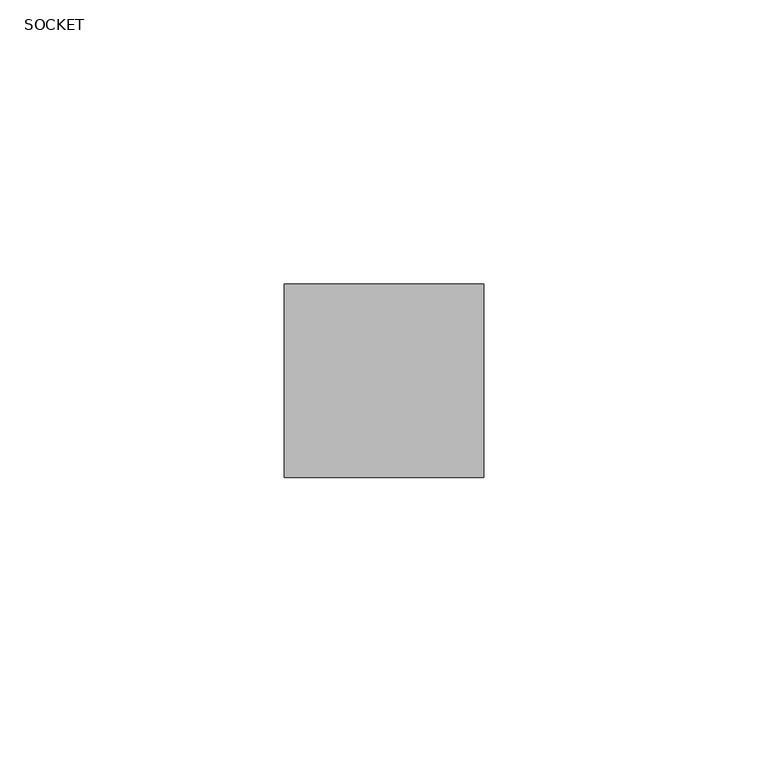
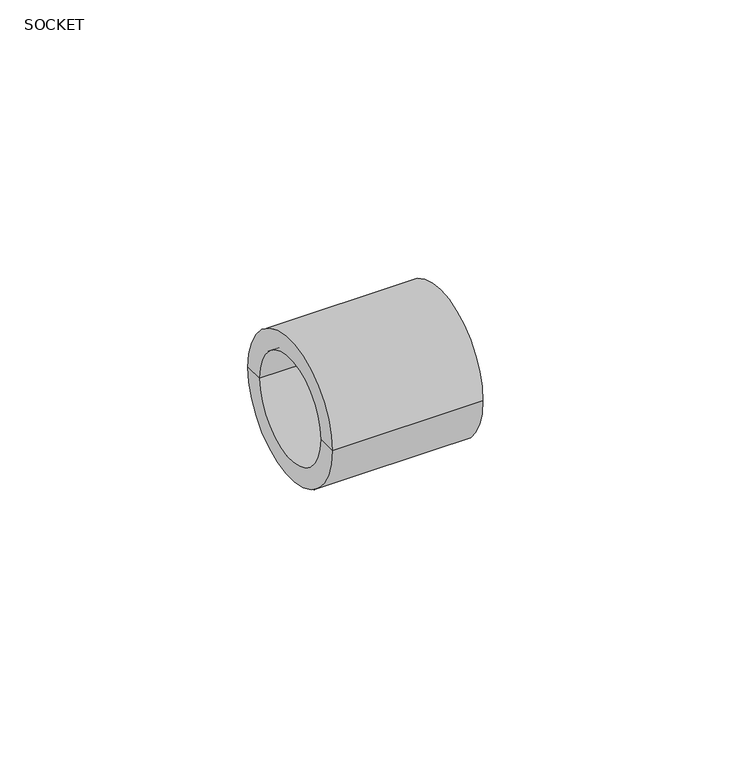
"""IFC4 building model written with IfcOpenShell, lengths in millimetres: pipe fitting geometry, Aquatherm - Coupling Socket : SOCKET."""

from ifc_helpers import new_model, si_unit, frame, origin, place, context, project, spatial, polyline, circle_curve, source, transform, mapped, element, save
from ifc_brep_helpers import plane_surface, cylinder_surface, revolved_surface, advanced_brep


def socket_94762d36(model_context):
    return source(origin(), model_context, "Body", "AdvancedBrep", [
        advanced_brep(
        [(-17.526, -12.446, 0.0), (-17.526, 12.446, 0.0), (-17.526, 17.018, 0.0), (-17.526, -17.018, 0.0), (-1.524, -12.446, 0.0), (-1.524, 12.446, 0.0), (-1.524, -9.398, 0.0), (-1.524, 9.398, 0.0), (1.524, -9.398, 0.0), (1.524, 9.398, 0.0), (1.524, -12.446, 0.0), (1.524, 12.446, 0.0), (17.526, -12.446, 0.0), (17.526, 12.446, 0.0), (17.526, -17.018, 0.0), (17.526, 17.018, 0.0)],
        [
            (0, 1, circle_curve(frame((-17.526, 0.0, 0.0), z_axis=(1.0, 0.0, 0.0), x_axis=(0.0, 1.0, 0.0)), 12.446)),
            (1, 2),
            (2, 3, circle_curve(frame((-17.526, 0.0, 0.0), z_axis=(-1.0, 0.0, 0.0), x_axis=(0.0, 1.0, 0.0)), 17.018)),
            (3, 0),
            (1, 0, circle_curve(frame((-17.526, 0.0, 0.0), z_axis=(1.0, 0.0, 0.0), x_axis=(0.0, 1.0, 0.0)), 12.446)),
            (3, 2, circle_curve(frame((-17.526, 0.0, 0.0), z_axis=(-1.0, 0.0, 0.0), x_axis=(0.0, 1.0, 0.0)), 17.018)),
            (4, 5, circle_curve(frame((-1.524, 0.0, 0.0), z_axis=(1.0, 0.0, 0.0), x_axis=(0.0, 1.0, 0.0)), 12.446)),
            (5, 1),
            (0, 4),
            (5, 4, circle_curve(frame((-1.524, 0.0, 0.0), z_axis=(1.0, 0.0, 0.0), x_axis=(0.0, 1.0, 0.0)), 12.446)),
            (6, 7, circle_curve(frame((-1.524, 0.0, 0.0), z_axis=(1.0, 0.0, 0.0), x_axis=(0.0, 1.0, 0.0)), 9.398)),
            (7, 5),
            (4, 6),
            (7, 6, circle_curve(frame((-1.524, 0.0, 0.0), z_axis=(1.0, 0.0, 0.0), x_axis=(0.0, 1.0, 0.0)), 9.398)),
            (8, 9, circle_curve(frame((1.524, 0.0, 0.0), z_axis=(1.0, 0.0, 0.0), x_axis=(0.0, 1.0, 0.0)), 9.398)),
            (9, 7),
            (6, 8),
            (9, 8, circle_curve(frame((1.524, 0.0, 0.0), z_axis=(1.0, 0.0, 0.0), x_axis=(0.0, 1.0, 0.0)), 9.398)),
            (10, 11, circle_curve(frame((1.524, 0.0, 0.0), z_axis=(1.0, 0.0, 0.0), x_axis=(0.0, 1.0, 0.0)), 12.446)),
            (11, 9),
            (8, 10),
            (11, 10, circle_curve(frame((1.524, 0.0, 0.0), z_axis=(1.0, 0.0, 0.0), x_axis=(0.0, 1.0, 0.0)), 12.446)),
            (12, 13, circle_curve(frame((17.526, 0.0, 0.0), z_axis=(1.0, 0.0, 0.0), x_axis=(0.0, 1.0, 0.0)), 12.446)),
            (13, 11),
            (10, 12),
            (13, 12, circle_curve(frame((17.526, 0.0, 0.0), z_axis=(1.0, 0.0, 0.0), x_axis=(0.0, 1.0, 0.0)), 12.446)),
            (14, 15, circle_curve(frame((17.526, 0.0, 0.0), z_axis=(1.0, 0.0, 0.0), x_axis=(0.0, 1.0, 0.0)), 17.018)),
            (15, 13),
            (12, 14),
            (15, 14, circle_curve(frame((17.526, 0.0, 0.0), z_axis=(1.0, 0.0, 0.0), x_axis=(0.0, 1.0, 0.0)), 17.018)),
            (2, 15),
            (14, 3),
        ],
        [
            plane_surface(frame((-17.526, 0.0, 0.0), z_axis=(-1.0, 0.0, 0.0), x_axis=(0.0, 1.0, 0.0))),
            revolved_surface(polyline([(-17.526, 12.446, 0.0), (-1.524000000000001, 12.446, 0.0)]), (-33.8244022, 0.0, 0.0), (-1.0, 0.0, 0.0)),
            plane_surface(frame((-1.524, 0.0, 0.0), z_axis=(-1.0, 0.0, 0.0), x_axis=(0.0, 1.0, 0.0))),
            revolved_surface(polyline([(-1.524000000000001, 9.398, 0.0), (1.524000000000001, 9.398, 0.0)]), (-33.8244022, 0.0, 0.0), (-1.0, 0.0, 0.0)),
            plane_surface(frame((1.524, 0.0, 0.0), z_axis=(1.0, 0.0, 0.0), x_axis=(0.0, 1.0, 0.0))),
            revolved_surface(polyline([(1.524000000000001, 12.446, 0.0), (17.526000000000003, 12.446, 0.0)]), (-33.8244022, 0.0, 0.0), (-1.0, 0.0, 0.0)),
            plane_surface(frame((17.526, 0.0, 0.0), z_axis=(1.0, 0.0, 0.0), x_axis=(0.0, 1.0, 0.0))),
            cylinder_surface(frame((-33.8244022, 0.0, 0.0), z_axis=(-1.0, 0.0, 0.0), x_axis=(0.0, 1.0, 0.0)), 17.018),
        ],
        [
            (0, [[1, 2, 3, 4]]),
            (0, [[5, -4, 6, -2]]),
            (1, [[7, 8, -1, 9]]),
            (1, [[10, -9, -5, -8]]),
            (2, [[11, 12, -7, 13]]),
            (2, [[14, -13, -10, -12]]),
            (3, [[15, 16, -11, 17]]),
            (3, [[18, -17, -14, -16]]),
            (4, [[19, 20, -15, 21]]),
            (4, [[22, -21, -18, -20]]),
            (5, [[23, 24, -19, 25]]),
            (5, [[26, -25, -22, -24]]),
            (6, [[27, 28, -23, 29]]),
            (6, [[30, -29, -26, -28]]),
            (7, [[-3, 31, -27, 32]]),
            (7, [[-6, -32, -30, -31]]),
        ],
    ),
    ])


if __name__ == "__main__":
    model = new_model("IFC4")
    model_context = context("Model", 3, world=origin())
    ifc_project = project(units=[si_unit("LENGTHUNIT", "METRE", prefix="MILLI")], contexts=[model_context])
    site = spatial("IfcSite", under=ifc_project)
    building = spatial("IfcBuilding", under=site)
    placement = place(None, origin())
    ifc_socket_shape = socket_94762d36(model_context)
    element("IfcPipeFitting", 1, ObjectType="Aquatherm - Coupling Socket : SOCKET", at=placement, inside=building, context=model_context, shape_type="MappedRepresentation", body=[
        mapped(ifc_socket_shape, transform((0.0, 0.0, 0.0), x_axis=(1.0, 0.0, 0.0), y_axis=(0.0, 1.0, 0.0), z_axis=(0.0, 0.0, 1.0))),
    ])
    save(model, "model.ifc")
